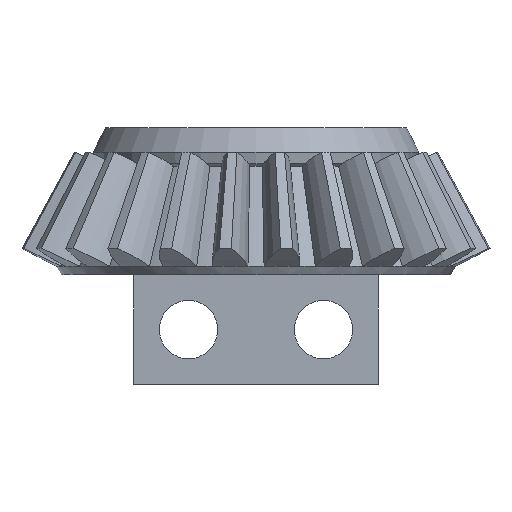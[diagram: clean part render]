
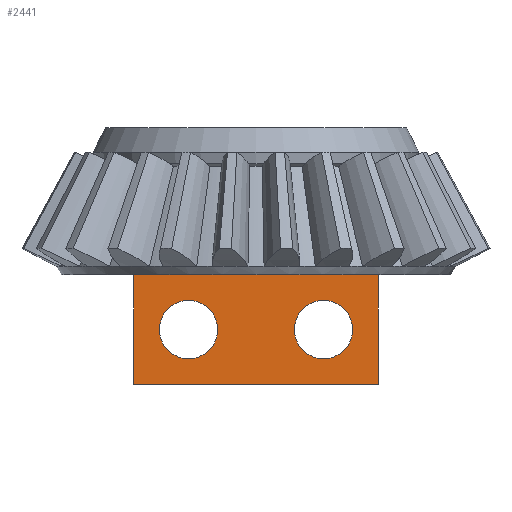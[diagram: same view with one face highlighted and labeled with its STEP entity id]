
A CAD part, left-side view. The second image highlights one B-rep face of the part: STEP entity #2441.
In plain terms, the highlighted planar face has unit normal (-1, 0, 0).
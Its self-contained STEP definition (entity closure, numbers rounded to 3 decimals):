
#362=FACE_BOUND('',#567,.T.);
#363=FACE_BOUND('',#568,.T.);
#375=PLANE('',#2644);
#393=FACE_OUTER_BOUND('',#566,.T.);
#566=EDGE_LOOP('',(#1671,#1672,#1673,#1674));
#567=EDGE_LOOP('',(#1675));
#568=EDGE_LOOP('',(#1676));
#753=LINE('',#3602,#796);
#754=LINE('',#3605,#797);
#755=LINE('',#3607,#798);
#756=LINE('',#3608,#799);
#796=VECTOR('',#2978,10.);
#797=VECTOR('',#2981,10.);
#798=VECTOR('',#2982,10.);
#799=VECTOR('',#2983,10.);
#823=CIRCLE('',#2639,1.6);
#825=CIRCLE('',#2642,1.6);
#1001=VERTEX_POINT('',#3585);
#1003=VERTEX_POINT('',#3591);
#1005=VERTEX_POINT('',#3596);
#1007=VERTEX_POINT('',#3600);
#1008=VERTEX_POINT('',#3604);
#1009=VERTEX_POINT('',#3606);
#1244=EDGE_CURVE('',#1001,#1001,#823,.T.);
#1247=EDGE_CURVE('',#1003,#1003,#825,.T.);
#1251=EDGE_CURVE('',#1005,#1007,#753,.T.);
#1252=EDGE_CURVE('',#1005,#1008,#754,.T.);
#1253=EDGE_CURVE('',#1009,#1007,#755,.T.);
#1254=EDGE_CURVE('',#1008,#1009,#756,.T.);
#1671=ORIENTED_EDGE('',*,*,#1252,.F.);
#1672=ORIENTED_EDGE('',*,*,#1251,.T.);
#1673=ORIENTED_EDGE('',*,*,#1253,.F.);
#1674=ORIENTED_EDGE('',*,*,#1254,.F.);
#1675=ORIENTED_EDGE('',*,*,#1244,.T.);
#1676=ORIENTED_EDGE('',*,*,#1247,.T.);
#2441=ADVANCED_FACE('',(#393,#362,#363),#375,.T.);
#2639=AXIS2_PLACEMENT_3D('',#3587,#2964,#2965);
#2642=AXIS2_PLACEMENT_3D('',#3593,#2971,#2972);
#2644=AXIS2_PLACEMENT_3D('',#3603,#2979,#2980);
#2964=DIRECTION('center_axis',(1.,0.,0.));
#2965=DIRECTION('ref_axis',(0.,1.,0.));
#2971=DIRECTION('center_axis',(1.,0.,0.));
#2972=DIRECTION('ref_axis',(0.,1.,0.));
#2978=DIRECTION('',(0.,0.,-1.));
#2979=DIRECTION('center_axis',(-1.,0.,0.));
#2980=DIRECTION('ref_axis',(0.,1.,0.));
#2981=DIRECTION('',(0.,-1.,0.));
#2982=DIRECTION('',(0.,1.,0.));
#2983=DIRECTION('',(0.,0.,-1.));
#3585=CARTESIAN_POINT('',(-5.,2.1,-28.));
#3587=CARTESIAN_POINT('Origin',(-5.,3.7,-28.));
#3591=CARTESIAN_POINT('',(-5.,-5.3,-28.));
#3593=CARTESIAN_POINT('Origin',(-5.,-3.7,-28.));
#3596=CARTESIAN_POINT('',(-5.,6.7,-25.));
#3600=CARTESIAN_POINT('',(-5.,6.7,-31.));
#3602=CARTESIAN_POINT('',(-5.,6.7,-25.));
#3603=CARTESIAN_POINT('Origin',(-5.,-6.7,-25.));
#3604=CARTESIAN_POINT('',(-5.,-6.7,-25.));
#3605=CARTESIAN_POINT('',(-5.,1.98,-25.));
#3606=CARTESIAN_POINT('',(-5.,-6.7,-31.));
#3607=CARTESIAN_POINT('',(-5.,-6.7,-31.));
#3608=CARTESIAN_POINT('',(-5.,-6.7,-25.));
